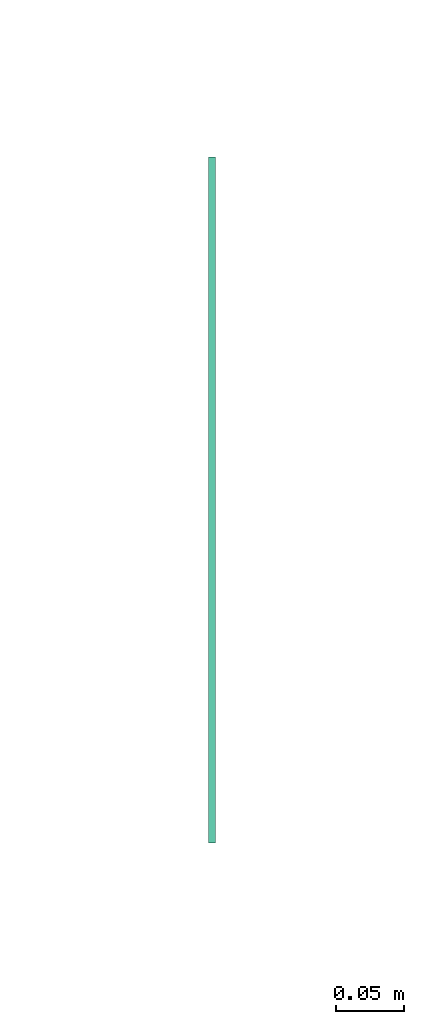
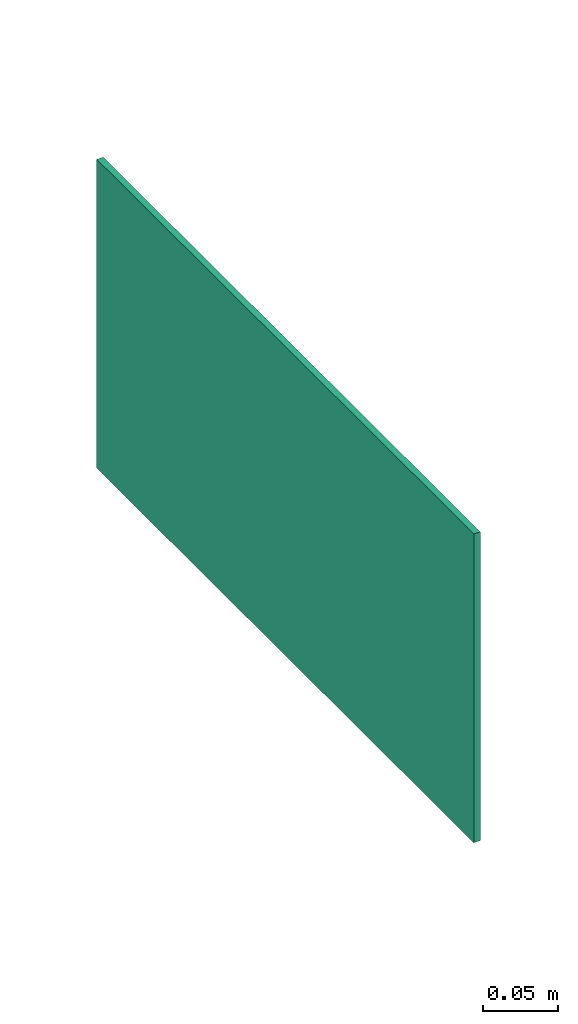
# One storey, part 9 of 9: 1 flow terminal.
"""IFC2X3 building model written with IfcOpenShell, lengths in metres."""

from ifc_helpers import new_model, entity, si_unit, converted_unit, derived_unit, direction, frame, frame_2d, origin, place, context, subcontext, project, spatial, polyline, circle_curve, parameter, trimmed, segment, composite_curve, circle, outline, extrude, source, transform, mapped, material, material_list, type_object, type_shapes, element, save


model = new_model("IFC2X3")

# Units and contexts
model_context = context("Model", 3, precision=1e-05, world=origin(), true_north=direction((6.12303176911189e-17, 1.0)))
body_context = subcontext(model_context, "Body", "Model", "MODEL_VIEW")
ifc_project = project(units=[si_unit("LENGTHUNIT", "METRE"), si_unit("AREAUNIT", "SQUARE_METRE"), si_unit("VOLUMEUNIT", "CUBIC_METRE"), converted_unit("PLANEANGLEUNIT", "DEGREE", entity("IfcRatioMeasure", 0.0174532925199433), si_unit("PLANEANGLEUNIT", "RADIAN"), dimensions=[0, 0, 0, 0, 0, 0, 0]), si_unit("MASSUNIT", "GRAM", prefix="KILO"), derived_unit("MASSDENSITYUNIT", [(si_unit("MASSUNIT", "GRAM", prefix="KILO"), 1), (si_unit("LENGTHUNIT", "METRE"), -3)]), derived_unit("MOMENTOFINERTIAUNIT", [(si_unit("LENGTHUNIT", "METRE"), 4)]), si_unit("TIMEUNIT", "SECOND"), si_unit("FREQUENCYUNIT", "HERTZ"), si_unit("THERMODYNAMICTEMPERATUREUNIT", "DEGREE_CELSIUS"), derived_unit("THERMALTRANSMITTANCEUNIT", [(si_unit("MASSUNIT", "GRAM", prefix="KILO"), 1), (si_unit("THERMODYNAMICTEMPERATUREUNIT", "KELVIN"), -1), (si_unit("TIMEUNIT", "SECOND"), -3)]), derived_unit("VOLUMETRICFLOWRATEUNIT", [(si_unit("LENGTHUNIT", "METRE"), 3), (si_unit("TIMEUNIT", "SECOND"), -1)]), si_unit("ELECTRICCURRENTUNIT", "AMPERE"), si_unit("ELECTRICVOLTAGEUNIT", "VOLT"), si_unit("POWERUNIT", "WATT"), si_unit("FORCEUNIT", "NEWTON", prefix="KILO"), si_unit("ILLUMINANCEUNIT", "LUX"), si_unit("LUMINOUSFLUXUNIT", "LUMEN"), si_unit("LUMINOUSINTENSITYUNIT", "CANDELA"), derived_unit("USERDEFINED", [(si_unit("MASSUNIT", "GRAM", prefix="KILO"), -1), (si_unit("LENGTHUNIT", "METRE"), -2), (si_unit("TIMEUNIT", "SECOND"), 3), (si_unit("LUMINOUSFLUXUNIT", "LUMEN"), 1)]), derived_unit("LINEARVELOCITYUNIT", [(si_unit("LENGTHUNIT", "METRE"), 1), (si_unit("TIMEUNIT", "SECOND"), -1)]), si_unit("PRESSUREUNIT", "PASCAL"), derived_unit("USERDEFINED", [(si_unit("LENGTHUNIT", "METRE"), -2), (si_unit("MASSUNIT", "GRAM", prefix="KILO"), 1), (si_unit("TIMEUNIT", "SECOND"), -2)]), derived_unit("LINEARFORCEUNIT", [(si_unit("MASSUNIT", "GRAM", prefix="KILO"), 1), (si_unit("LENGTHUNIT", "METRE"), 1), (si_unit("TIMEUNIT", "SECOND"), -2), (si_unit("LENGTHUNIT", "METRE"), -1)]), derived_unit("PLANARFORCEUNIT", [(si_unit("MASSUNIT", "GRAM", prefix="KILO"), 1), (si_unit("LENGTHUNIT", "METRE"), 1), (si_unit("TIMEUNIT", "SECOND"), -2), (si_unit("LENGTHUNIT", "METRE"), -2)])], contexts=[model_context])

# Site, building, storey
site_placement = place(None, origin())
site = spatial("IfcSite", under=ifc_project, at=site_placement, Name="Default", CompositionType="ELEMENT")
building_placement = place(site_placement, origin())
building = spatial("IfcBuilding", under=site, at=building_placement, Name="C.L. MONSENHOR ANTÔNIO SAMPAIO", CompositionType="ELEMENT")
storey_placement = place(building_placement, origin())
storey = spatial("IfcBuildingStorey", under=building, at=storey_placement, Name="TÉRREO", CompositionType="ELEMENT", Elevation=0.0)

# Flow terminal
ifc_material_1 = material(Name="Branco")
ifc_material_2 = material(Name="VERDE")
ifc_material_list = material_list([ifc_material_1, ifc_material_2])
distribution_element_type = type_object("IfcDistributionElementType", Name="S2:10 metros", material=ifc_material_1)
shared_shape = source(origin(), body_context, "Body", "SweptSolid", [
    extrude(outline(polyline([(-0.12748118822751, 0.0610696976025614), (-0.12748118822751, -0.0766837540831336), (-0.0524811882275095, -0.0766837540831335), (-0.0524811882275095, -0.0586375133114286), (-0.0754210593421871, -0.0425748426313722), (-0.0838734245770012, -0.0244486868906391), (-0.0838734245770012, 0.0305513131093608), (-0.0465667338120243, 0.0557149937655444), (-0.0359601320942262, 0.0451083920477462), (-0.0649764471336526, 0.02553664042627), (-0.0649764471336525, 0.00553664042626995), (-0.0287241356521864, 0.022441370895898), (0.0135955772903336, 0.0261438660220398), (0.0155685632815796, 0.0637906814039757), (0.0343450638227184, 0.0825671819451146), (0.0366135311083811, 0.0176067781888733), (0.0260069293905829, 0.00700017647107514), (-0.00370111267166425, 0.00282498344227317), (-0.00109649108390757, -0.00276064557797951), (0.0690217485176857, -0.0369595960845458), (0.0690217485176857, -0.0633954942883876), (-0.0208576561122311, -0.0195583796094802), (-0.0294894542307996, -0.0195583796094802), (-0.0512605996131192, -0.0348026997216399), (-0.029319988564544, -0.0552626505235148), (-0.029319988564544, -0.0766837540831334), (0.070680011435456, -0.0766837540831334), (0.084822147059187, -0.0625416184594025), (0.0848221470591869, -0.0462279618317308), (0.0717118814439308, -0.0572287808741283), (0.0717118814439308, -0.0310842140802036), (0.0848221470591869, -0.0179739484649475), (0.0848221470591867, 0.0744479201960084), (0.0714395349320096, 0.0595850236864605), (0.0393589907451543, 0.0595850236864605), (0.0393589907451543, 0.0895850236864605), (0.0340999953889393, 0.0895850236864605), (0.00751881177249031, 0.0610696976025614), (-0.12748118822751, 0.0610696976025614)]), holes=[composite_curve([segment(trimmed(circle_curve(frame_2d((-0.103271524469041, -0.0324099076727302), x_axis=(0.0, -1.0)), 0.0177066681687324), [parameter(6.61555373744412e-13)], [parameter(180.0)], True, "PARAMETER"), False, "CONTINUOUS"), segment(trimmed(circle_curve(frame_2d((-0.103271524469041, -0.0324099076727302), x_axis=(0.0, -1.0)), 0.0177066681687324), [parameter(180.0)], [parameter(0.0)], True, "PARAMETER"), False, "CONTINUOUS")], self_intersect=False)]), frame((0.135804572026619, -0.005, 0.100036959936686), z_axis=(0.0, -1.0, 0.0), x_axis=(0.0, 0.0, -1.0)), (0.0, 0.0, -1.0), 0.005),
    extrude(outline(polyline([(-0.0156689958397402, -0.0893393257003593), (0.0156689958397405, -0.0893393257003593), (0.0156689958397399, 0.0256606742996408), (0.0545598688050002, -0.0132301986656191), (0.0545598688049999, 0.0317698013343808), (0.0, 0.0902780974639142), (-0.0545598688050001, 0.0317698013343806), (-0.0545598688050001, -0.0132301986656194), (-0.01566899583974, 0.0256606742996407), (-0.0156689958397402, -0.0893393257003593)])), frame((-0.12865825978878, -0.005, 0.12724469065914), z_axis=(0.0, 1.0, 0.0), x_axis=(0.0, 0.0, -1.0)), (0.0, 0.0, 1.0), 0.005),
    extrude(outline(polyline([(-0.126499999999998, -0.253), (0.1265, -0.253), (0.126499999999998, 0.253), (-0.1265, 0.252999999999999), (-0.126499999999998, -0.253)]), holes=[polyline([(0.0164136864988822, -0.154318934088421), (0.0553045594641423, -0.11542806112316), (0.0553045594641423, -0.16042806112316), (0.000744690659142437, -0.218936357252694), (-0.0538151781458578, -0.160428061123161), (-0.0538151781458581, -0.115428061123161), (-0.0149243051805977, -0.154318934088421), (-0.0149243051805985, -0.0393189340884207), (0.0164136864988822, -0.0393189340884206), (0.0164136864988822, -0.154318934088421)]), polyline([(0.101018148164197, 0.19687426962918), (0.101018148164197, 0.0591208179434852), (0.0260181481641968, 0.0591208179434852), (0.0260181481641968, 0.0771670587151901), (0.0489580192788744, 0.0932297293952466), (0.0574103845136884, 0.11135588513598), (0.0574103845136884, 0.16635588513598), (0.0201036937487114, 0.191519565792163), (0.00949709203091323, 0.180912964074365), (0.0385134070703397, 0.161341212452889), (0.0385134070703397, 0.141341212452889), (0.00226109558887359, 0.158245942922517), (-0.0400586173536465, 0.161948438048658), (-0.0420316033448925, 0.199595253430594), (-0.0608081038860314, 0.218371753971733), (-0.063076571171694, 0.153411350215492), (-0.0524699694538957, 0.142804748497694), (-0.0227619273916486, 0.138629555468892), (-0.0253665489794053, 0.133043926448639), (-0.0954847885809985, 0.0988449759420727), (-0.0954847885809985, 0.0724090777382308), (-0.00560538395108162, 0.116246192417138), (0.0030264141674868, 0.116246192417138), (0.0247975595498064, 0.101001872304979), (0.00285694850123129, 0.0805419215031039), (0.00285694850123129, 0.0591208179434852), (-0.0971430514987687, 0.059120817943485), (-0.1112851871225, 0.0732629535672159), (-0.1112851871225, 0.0895766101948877), (-0.0981749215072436, 0.0785757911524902), (-0.0981749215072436, 0.104720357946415), (-0.1112851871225, 0.117830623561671), (-0.1112851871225, 0.210252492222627), (-0.0979025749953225, 0.195389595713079), (-0.0658220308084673, 0.195389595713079), (-0.0658220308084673, 0.225389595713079), (-0.0605630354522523, 0.225389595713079), (-0.0339818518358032, 0.19687426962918), (0.101018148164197, 0.19687426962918)])]), frame((0.0, -0.005, 0.126499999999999), z_axis=(0.0, 1.0, 0.0), x_axis=(0.0, 0.0, 1.0)), (0.0, 0.0, 1.0), 0.005),
    extrude(circle(Radius=0.0177066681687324, at=frame_2d((0.0, -1.01518793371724e-16), x_axis=(1.0, 0.0))), frame((0.103394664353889, -0.005, 0.203308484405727), z_axis=(0.0, 1.0, 0.0), x_axis=(-1.0, 0.0, 0.0)), (0.0, 0.0, 1.0), 0.005),
])
type_shapes(distribution_element_type, [shared_shape])
flow_terminal_placement = place(building_placement, frame((-5.84055229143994, -11.2130663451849, 0.0), z_axis=(0.0, 0.0, 1.0), x_axis=(0.0, 1.0, 0.0)))
element("IfcFlowTerminal", 1, at=flow_terminal_placement, inside=storey, type_object=distribution_element_type, material=ifc_material_list, Name="S2:10 metros", ObjectType="S2:10 metros", context=body_context, shape_type="MappedRepresentation", body=[
    mapped(shared_shape, transform((0.0, 0.0, 0.0), scale=1.0)),
])

save(model, "model.ifc")
